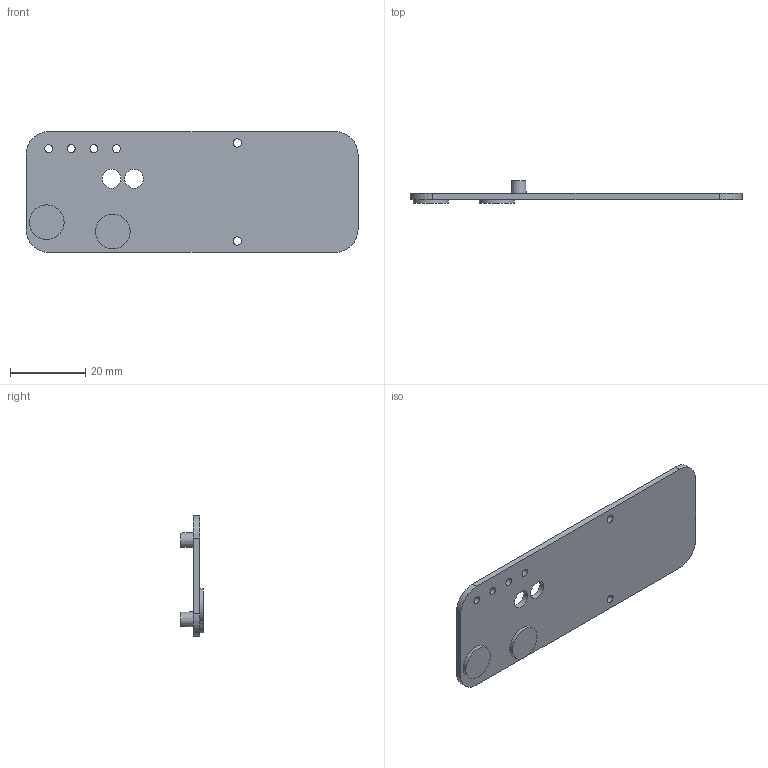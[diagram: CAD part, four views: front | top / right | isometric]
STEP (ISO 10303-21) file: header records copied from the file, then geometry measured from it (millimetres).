
FILE_DESCRIPTION(('FreeCAD Model'),'2;1');
FILE_NAME('Open CASCADE Shape Model','2026-11-12T12:36:18',('FreeCAD'),( 'FreeCAD'),'Open CASCADE STEP processor 7.8','FreeCAD','Unknown');
FILE_SCHEMA(('AUTOMOTIVE_DESIGN { 1 0 10303 214 1 1 1 1 }'));
Length unit declared in the file: millimetre
Products named in the file (1): Open CASCADE STEP translator 7.8 3
Bounding box: 88 x 5.99 x 32 mm (x, y, z)
Volume: 4339.8 mm3; surface area: 6182.2 mm2
Topology: 1 solids, 1 shells, 31 faces, 74 edges, 50 vertices
Faces by surface type: cylinder 16, plane 13, cone 2
Full cylindrical faces by diameter (mm): 2.1 x4, 2.2 x2, 5 x2, 8.2 x2, 9.2 x2
Entity records: 972 total; most frequent: DIRECTION 178, CARTESIAN_POINT 164, ORIENTED_EDGE 148, AXIS2_PLACEMENT_3D 74, EDGE_CURVE 74, FACE_BOUND 52, EDGE_LOOP 52, VERTEX_POINT 50
